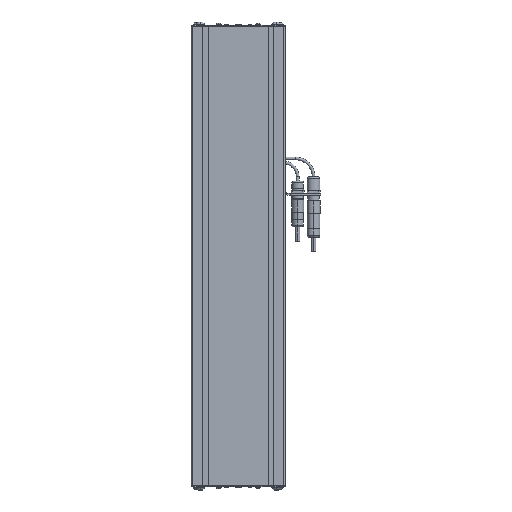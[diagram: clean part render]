
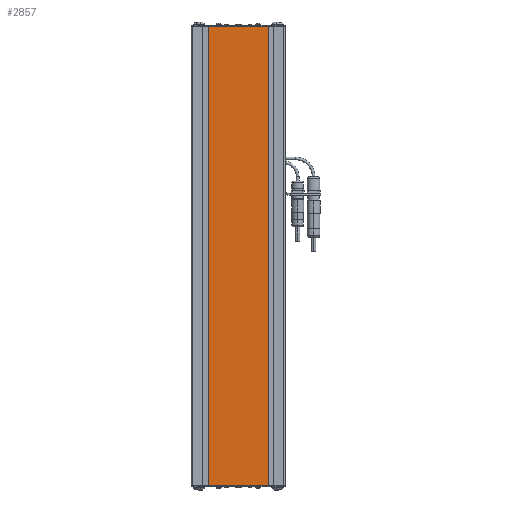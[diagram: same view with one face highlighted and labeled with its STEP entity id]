
A CAD part, front view. The second image highlights one B-rep face of the part: STEP entity #2857.
In plain terms, the highlighted planar face has unit normal (0, -1, 0).
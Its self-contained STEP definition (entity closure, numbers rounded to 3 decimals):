
#1386 = CARTESIAN_POINT ( 'NONE',  ( -64., 0., 490.5 ) ) ;
#1902 = AXIS2_PLACEMENT_3D ( 'NONE', #15186, #25677, #3357 ) ;
#2697 = FACE_OUTER_BOUND ( 'NONE', #22219, .T. ) ;
#2857 = ADVANCED_FACE ( 'NONE', ( #2697 ), #7090, .F. ) ;
#3102 = CARTESIAN_POINT ( 'NONE',  ( 64., 0., 490.5 ) ) ;
#3357 = DIRECTION ( 'NONE',  ( 0., 0., 1. ) ) ;
#3375 = LINE ( 'NONE', #1386, #12708 ) ;
#3753 = CARTESIAN_POINT ( 'NONE',  ( -64., 0., -490.5 ) ) ;
#4185 = LINE ( 'NONE', #18929, #24322 ) ;
#4705 = DIRECTION ( 'NONE',  ( 0., 0., -1. ) ) ;
#5012 = LINE ( 'NONE', #16704, #18327 ) ;
#5255 = VERTEX_POINT ( 'NONE', #3102 ) ;
#6746 = ORIENTED_EDGE ( 'NONE', *, *, #14942, .F. ) ;
#7090 = PLANE ( 'NONE',  #1902 ) ;
#9337 = CARTESIAN_POINT ( 'NONE',  ( -64., 0., 490.5 ) ) ;
#9483 = DIRECTION ( 'NONE',  ( 1., 0., 0. ) ) ;
#9784 = CARTESIAN_POINT ( 'NONE',  ( 64., 0., -490.5 ) ) ;
#11887 = EDGE_CURVE ( 'NONE', #21381, #23040, #14531, .T. ) ;
#12708 = VECTOR ( 'NONE', #9483, 1000. ) ;
#13260 = VECTOR ( 'NONE', #14415, 1000. ) ;
#13315 = ORIENTED_EDGE ( 'NONE', *, *, #14328, .F. ) ;
#14328 = EDGE_CURVE ( 'NONE', #5255, #23040, #5012, .T. ) ;
#14415 = DIRECTION ( 'NONE',  ( 1., 0., 0. ) ) ;
#14531 = LINE ( 'NONE', #22634, #13260 ) ;
#14608 = ORIENTED_EDGE ( 'NONE', *, *, #18935, .T. ) ;
#14942 = EDGE_CURVE ( 'NONE', #19623, #5255, #3375, .T. ) ;
#15186 = CARTESIAN_POINT ( 'NONE',  ( -64., 0., 490.5 ) ) ;
#16704 = CARTESIAN_POINT ( 'NONE',  ( 64., 0., 490.5 ) ) ;
#18327 = VECTOR ( 'NONE', #25340, 1000. ) ;
#18929 = CARTESIAN_POINT ( 'NONE',  ( -64., 0., 490.5 ) ) ;
#18935 = EDGE_CURVE ( 'NONE', #19623, #21381, #4185, .T. ) ;
#19542 = ORIENTED_EDGE ( 'NONE', *, *, #11887, .T. ) ;
#19623 = VERTEX_POINT ( 'NONE', #9337 ) ;
#21381 = VERTEX_POINT ( 'NONE', #3753 ) ;
#22219 = EDGE_LOOP ( 'NONE', ( #19542, #13315, #6746, #14608 ) ) ;
#22634 = CARTESIAN_POINT ( 'NONE',  ( -64., 0., -490.5 ) ) ;
#23040 = VERTEX_POINT ( 'NONE', #9784 ) ;
#24322 = VECTOR ( 'NONE', #4705, 1000. ) ;
#25340 = DIRECTION ( 'NONE',  ( 0., 0., -1. ) ) ;
#25677 = DIRECTION ( 'NONE',  ( 0., 1., 0. ) ) ;
